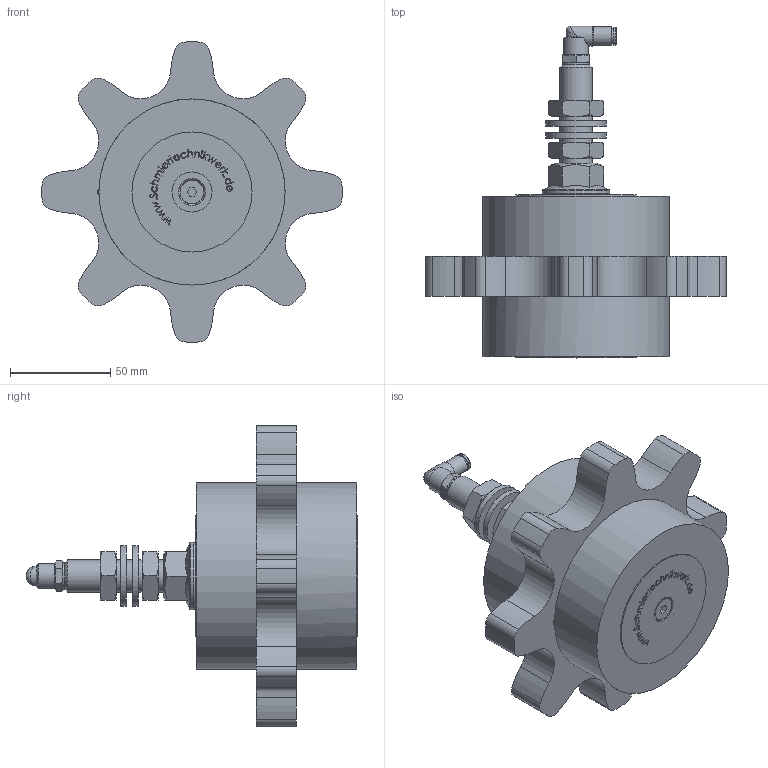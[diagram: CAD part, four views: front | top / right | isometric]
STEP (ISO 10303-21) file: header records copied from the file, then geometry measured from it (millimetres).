
FILE_DESCRIPTION (( 'STEP AP214' ), '1' );
FILE_NAME ('012_06_32B1_AZ.STEP', '2026-01-19T13:54:53', ( '' ), ( '' ), 'SwSTEP 2.0', 'SolidWorks 2022', '' );
FILE_SCHEMA (( 'AUTOMOTIVE_DESIGN' ));
Length unit declared in the file: millimetre
Products named in the file (9): OR 7.2X1.9_1; Winkelsteckverschraubung_04_1_8; R202201-I1-N2A_1; DR4_NEU_1; Mutter_M16; 214602-N2_GEW.-_1-8_1-8_1; Scheibe_M16; 012_06_32B1_A_01; 012_06_32B1_AZ
Assembly tree (10 placements, depth 3):
  012_06_32B1_AZ
    012_06_32B1_A_01
    Mutter_M16  x2
    Scheibe_M16  x2
    Winkelsteckverschraubung_04_1_8
      R202201-I1-N2A_1
      DR4_NEU_1
      214602-N2_GEW.-_1-8_1-8_1
      OR 7.2X1.9_1
Bounding box: 149.98 x 165.8 x 149.98 mm (x, y, z)
Volume: 10877 mm3; surface area: 88612.8 mm2
Topology: 8 solids, 62 shells, 451 faces, 1323 edges, 972 vertices
Faces by surface type: plane 179, cylinder 159, cone 95, torus 8, sphere 7, bspline 3
Full cylindrical faces by diameter (mm): 2 x3, 3 x1, 3.2 x1, 4 x3, 4.1 x2, 4.2 x6, 4.5 x3, 4.9 x6, 4.917 x1, 5 x12, 5.5 x1, 6 x2, 6.4 x1, 7 x6, 7.3 x1, 7.4 x1, 7.6 x1, 7.7 x1, 8.3 x1, 8.376 x2, 8.5 x3, 8.917 x1, 9 x3, 9.1 x1, 9.728 x1, 10 x1, 10.1 x2, 12.5 x1, 13 x1, 14 x3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
Entity records: 34523 total; most frequent: CARTESIAN_POINT 22651, DIRECTION 1972, ORIENTED_EDGE 1691, EDGE_CURVE 1016, VERTEX_POINT 849, AXIS2_PLACEMENT_3D 788, EDGE_LOOP 642, FACE_OUTER_BOUND 516
